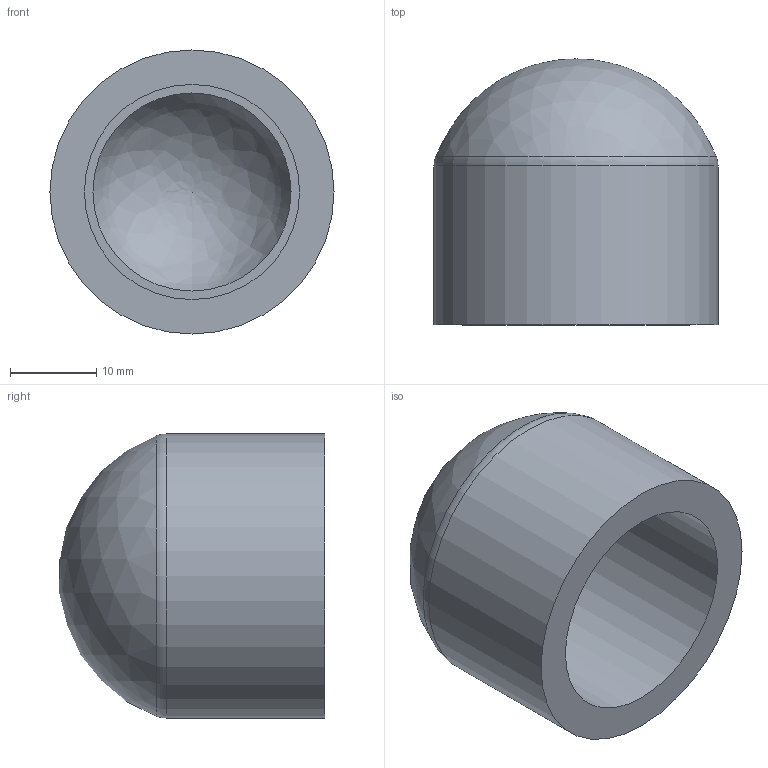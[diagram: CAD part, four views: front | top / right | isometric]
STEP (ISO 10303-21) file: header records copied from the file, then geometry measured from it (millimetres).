
FILE_DESCRIPTION(/* description */ ('PVC calotta incollaggio metrico'),/* implementation_level */ '2;1');
FILE_NAME(/* name */ 'C:\Users\POLYPIPE\Desktop\DATASET INVENTOR\LIBRERIA EFFAST\RACCORDI 3DxWEB\RDR\3D_RDRCAD\3D_RDRCAD0250.stp',/* time_stamp */ '2018-01-19T14:05:52+01:00',/* author */ ('POLYPIPE'),/* organization */ ('Polypipe Italia'),/* preprocessor_version */ 'ST-DEVELOPER v16.1',/* originating_system */ 'Autodesk Inventor 2016',/* authorisation */ '');
FILE_SCHEMA (('CONFIG_CONTROL_DESIGN'));
Length unit declared in the file: millimetre
Products named in the file (1): 3D_RDRCAD
Bounding box: 33 x 30.89 x 33 mm (x, y, z)
Volume: 11112.3 mm3; surface area: 5811.6 mm2
Topology: 1 solids, 1 shells, 7 faces, 12 edges, 8 vertices
Faces by surface type: cylinder 2, plane 2, torus 1, sphere 1, bspline 1
Full cylindrical faces by diameter (mm): 25 x1, 33 x1
Entity records: 198 total; most frequent: CARTESIAN_POINT 52, DIRECTION 28, ORIENTED_EDGE 16, AXIS2_PLACEMENT_3D 14, EDGE_LOOP 12, VERTEX_POINT 8, EDGE_CURVE 8, FACE_OUTER_BOUND 7
